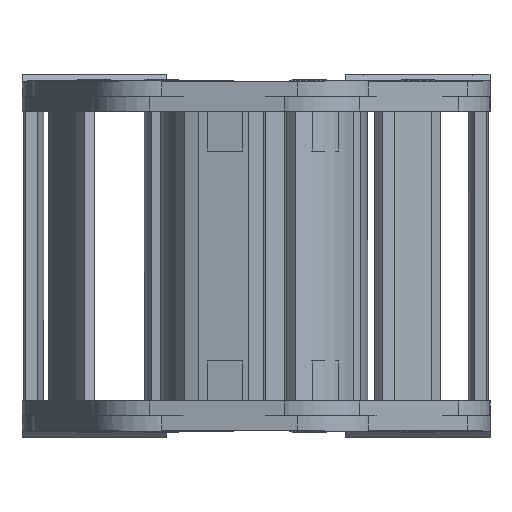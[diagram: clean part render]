
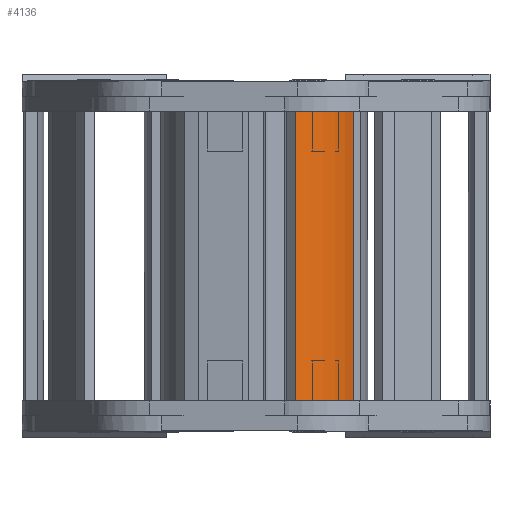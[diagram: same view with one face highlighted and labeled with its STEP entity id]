
A CAD part, left-side view. The second image highlights one B-rep face of the part: STEP entity #4136.
In plain terms, the highlighted cylindrical face has radius 52 mm (diameter 104 mm), a partial arc.
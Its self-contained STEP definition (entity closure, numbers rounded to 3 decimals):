
#3907=CARTESIAN_POINT('',(0.,-103.5,37.5));
#3908=DIRECTION('',(0.,0.,1.));
#3909=DIRECTION('',(0.346,0.938,0.));
#3910=AXIS2_PLACEMENT_3D('',#3907,#3908,#3909);
#3950=DIRECTION('',(0.,0.,-1.));
#3951=VECTOR('',#3950,130.5);
#3952=CARTESIAN_POINT('',(18.,-54.715,37.5));
#3953=LINE('',#3952,#3951);
#3957=DIRECTION('',(0.,0.,1.));
#3958=VECTOR('',#3957,130.5);
#3959=CARTESIAN_POINT('',(-18.,-54.715,-93.));
#3960=LINE('',#3959,#3958);
#3971=CARTESIAN_POINT('',(0.,-103.5,-93.));
#3972=DIRECTION('',(0.,0.,-1.));
#3973=DIRECTION('',(-0.346,0.938,0.));
#3974=AXIS2_PLACEMENT_3D('',#3971,#3972,#3973);
#4029=CARTESIAN_POINT('',(18.,-54.715,-93.));
#4031=VERTEX_POINT('',#4029);
#4032=CARTESIAN_POINT('',(-18.,-54.715,-93.));
#4033=VERTEX_POINT('',#4032);
#4040=CARTESIAN_POINT('',(18.,-54.715,37.5));
#4041=VERTEX_POINT('',#4040);
#4044=CARTESIAN_POINT('',(-18.,-54.715,37.5));
#4045=VERTEX_POINT('',#4044);
#4122=CARTESIAN_POINT('',(0.,-103.5,-18.));
#4123=DIRECTION('',(0.,0.,-1.));
#4124=DIRECTION('',(1.,0.,0.));
#4125=AXIS2_PLACEMENT_3D('',#4122,#4123,#4124);
#4126=CYLINDRICAL_SURFACE('',#4125,52.);
#4128=ORIENTED_EDGE('',*,*,#4127,.F.);
#4129=ORIENTED_EDGE('',*,*,#4102,.T.);
#4131=ORIENTED_EDGE('',*,*,#4130,.F.);
#4133=ORIENTED_EDGE('',*,*,#4132,.T.);
#4134=EDGE_LOOP('',(#4128,#4129,#4131,#4133));
#4135=FACE_OUTER_BOUND('',#4134,.F.);
#4136=ADVANCED_FACE('',(#4135),#4126,.T.);
#3911=CIRCLE('',#3910,52.);
#3975=CIRCLE('',#3974,52.);
#4102=EDGE_CURVE('',#4041,#4045,#3911,.T.);
#4127=EDGE_CURVE('',#4041,#4031,#3953,.T.);
#4130=EDGE_CURVE('',#4033,#4045,#3960,.T.);
#4132=EDGE_CURVE('',#4033,#4031,#3975,.T.);
